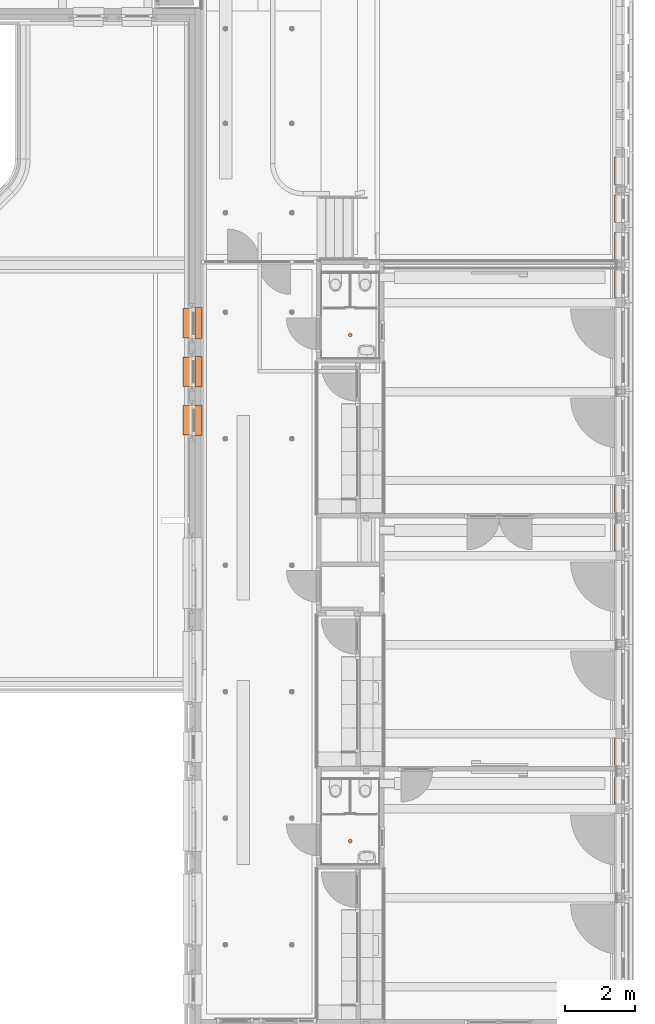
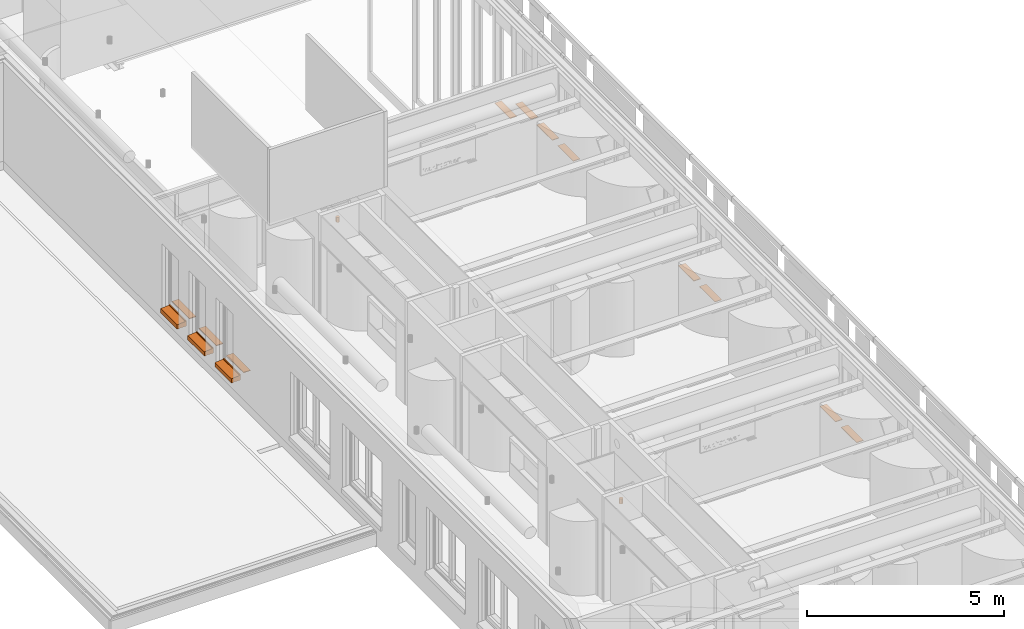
# One storey, part 123 of 128: 16 proxies.
"""IFC2X3 building model written with IfcOpenShell, lengths in millimetres."""

from ifc_helpers import new_model, entity, si_unit, converted_unit, derived_unit, direction, frame, frame_2d, origin, origin_2d_with_axis, place, context, subcontext, project, spatial, polyline, circle_curve, parameter, trimmed, segment, composite_curve, rectangle, circle, outline, extrude, source, transform, mapped, material, type_object, type_shapes, element, save


model = new_model("IFC2X3")

# Units and contexts
model_context = context("Model", 3, precision=0.01, world=origin(), true_north=direction((6.123031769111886e-17, 1.0)))
body_context = subcontext(model_context, "Body", "Model", "MODEL_VIEW")
ifc_project = project(units=[si_unit("LENGTHUNIT", "METRE", prefix="MILLI"), si_unit("AREAUNIT", "SQUARE_METRE"), si_unit("VOLUMEUNIT", "CUBIC_METRE"), converted_unit("PLANEANGLEUNIT", "DEGREE", entity("IfcRatioMeasure", 0.017453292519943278), si_unit("PLANEANGLEUNIT", "RADIAN"), dimensions=[0, 0, 0, 0, 0, 0, 0]), si_unit("MASSUNIT", "GRAM", prefix="KILO"), derived_unit("MASSDENSITYUNIT", [(si_unit("MASSUNIT", "GRAM", prefix="KILO"), 1), (si_unit("LENGTHUNIT", "METRE"), -3)]), derived_unit("IONCONCENTRATIONUNIT", [(si_unit("MASSUNIT", "GRAM", prefix="KILO"), 1), (si_unit("LENGTHUNIT", "METRE"), -3)]), derived_unit("MOMENTOFINERTIAUNIT", [(si_unit("LENGTHUNIT", "METRE"), 4)]), si_unit("TIMEUNIT", "SECOND"), si_unit("FREQUENCYUNIT", "HERTZ"), si_unit("THERMODYNAMICTEMPERATUREUNIT", "DEGREE_CELSIUS"), derived_unit("THERMALTRANSMITTANCEUNIT", [(si_unit("MASSUNIT", "GRAM", prefix="KILO"), 1), (si_unit("THERMODYNAMICTEMPERATUREUNIT", "KELVIN"), -1), (si_unit("TIMEUNIT", "SECOND"), -3)]), derived_unit("THERMALCONDUCTANCEUNIT", [(si_unit("MASSUNIT", "GRAM", prefix="KILO"), 1), (si_unit("THERMODYNAMICTEMPERATUREUNIT", "KELVIN"), -1), (si_unit("TIMEUNIT", "SECOND"), -3), (si_unit("LENGTHUNIT", "METRE"), 1)]), derived_unit("VOLUMETRICFLOWRATEUNIT", [(si_unit("LENGTHUNIT", "METRE"), 3), (si_unit("TIMEUNIT", "SECOND"), -1)]), derived_unit("MASSFLOWRATEUNIT", [(si_unit("MASSUNIT", "GRAM", prefix="KILO"), 1), (si_unit("TIMEUNIT", "SECOND"), -1)]), derived_unit("ROTATIONALFREQUENCYUNIT", [(si_unit("TIMEUNIT", "SECOND"), -1)]), si_unit("ELECTRICCURRENTUNIT", "AMPERE"), si_unit("ELECTRICVOLTAGEUNIT", "VOLT"), si_unit("POWERUNIT", "WATT"), si_unit("FORCEUNIT", "NEWTON", prefix="KILO"), si_unit("ILLUMINANCEUNIT", "LUX"), si_unit("LUMINOUSFLUXUNIT", "LUMEN"), si_unit("LUMINOUSINTENSITYUNIT", "CANDELA"), derived_unit("USERDEFINED", [(si_unit("MASSUNIT", "GRAM", prefix="KILO"), -1), (si_unit("LENGTHUNIT", "METRE"), -2), (si_unit("TIMEUNIT", "SECOND"), 3), (si_unit("LUMINOUSFLUXUNIT", "LUMEN"), 1)]), derived_unit("USERDEFINED", [(si_unit("MASSUNIT", "GRAM", prefix="KILO"), 1), (si_unit("TIMEUNIT", "SECOND"), -3), (si_unit("LENGTHUNIT", "METRE"), 3), (si_unit("ELECTRICCURRENTUNIT", "AMPERE"), -2)]), derived_unit("SOUNDPOWERUNIT", [(si_unit("MASSUNIT", "GRAM", prefix="KILO"), 1), (si_unit("TIMEUNIT", "SECOND"), -3), (si_unit("LENGTHUNIT", "METRE"), 2)]), derived_unit("SOUNDPRESSUREUNIT", [(si_unit("MASSUNIT", "GRAM", prefix="KILO"), 1), (si_unit("LENGTHUNIT", "METRE"), -1), (si_unit("TIMEUNIT", "SECOND"), -2)]), derived_unit("LINEARVELOCITYUNIT", [(si_unit("LENGTHUNIT", "METRE"), 1), (si_unit("TIMEUNIT", "SECOND"), -1)]), si_unit("PRESSUREUNIT", "PASCAL"), derived_unit("USERDEFINED", [(si_unit("MASSUNIT", "GRAM", prefix="KILO"), 1), (si_unit("LENGTHUNIT", "METRE"), -2), (si_unit("TIMEUNIT", "SECOND"), -2)]), derived_unit("LINEARFORCEUNIT", [(si_unit("MASSUNIT", "GRAM", prefix="KILO"), 1), (si_unit("TIMEUNIT", "SECOND"), -2)]), derived_unit("PLANARFORCEUNIT", [(si_unit("MASSUNIT", "GRAM", prefix="KILO"), 1), (si_unit("LENGTHUNIT", "METRE"), -1), (si_unit("TIMEUNIT", "SECOND"), -2)]), derived_unit("SPECIFICHEATCAPACITYUNIT", [(si_unit("THERMODYNAMICTEMPERATUREUNIT", "KELVIN"), -1), (si_unit("LENGTHUNIT", "METRE"), 2), (si_unit("TIMEUNIT", "SECOND"), -2)]), derived_unit("HEATINGVALUEUNIT", [(si_unit("LENGTHUNIT", "METRE"), 2), (si_unit("TIMEUNIT", "SECOND"), -2)]), derived_unit("VAPORPERMEABILITYUNIT", [(si_unit("LENGTHUNIT", "METRE"), -1), (si_unit("TIMEUNIT", "SECOND"), 1)]), derived_unit("DYNAMICVISCOSITYUNIT", [(si_unit("MASSUNIT", "GRAM", prefix="KILO"), 1), (si_unit("TIMEUNIT", "SECOND"), -1), (si_unit("LENGTHUNIT", "METRE"), -1)]), derived_unit("THERMALEXPANSIONCOEFFICIENTUNIT", [(si_unit("THERMODYNAMICTEMPERATUREUNIT", "KELVIN"), -1)]), derived_unit("MODULUSOFELASTICITYUNIT", [(si_unit("MASSUNIT", "GRAM", prefix="KILO"), 1), (si_unit("LENGTHUNIT", "METRE"), -1), (si_unit("TIMEUNIT", "SECOND"), -2)]), derived_unit("ISOTHERMALMOISTURECAPACITYUNIT", [(si_unit("LENGTHUNIT", "METRE"), 3), (si_unit("MASSUNIT", "GRAM", prefix="KILO"), -1)]), derived_unit("MOISTUREDIFFUSIVITYUNIT", [(si_unit("TIMEUNIT", "SECOND"), -1), (si_unit("LENGTHUNIT", "METRE"), 2)])], contexts=[model_context])

# Site, building, storey, space
site_placement = place(None, frame((0.0, 300.0, 0.0)))
site = spatial("IfcSite", under=ifc_project, at=site_placement, Name="<Kadastrale nummers>", CompositionType="ELEMENT")
building_placement = place(site_placement, origin())
building = spatial("IfcBuilding", under=site, at=building_placement, CompositionType="ELEMENT")
storey_placement = place(building_placement, frame((0.0, 0.0, 3560.0000331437)))
storey = spatial("IfcBuildingStorey", under=building, at=storey_placement, Name="01 eerste verdieping", CompositionType="ELEMENT", Elevation=3560.0000331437)
space_1_placement = place(storey_placement, origin())
space_1 = spatial("IfcSpace", under=storey, at=space_1_placement, Name="1.27", CompositionType="ELEMENT", InteriorOrExteriorSpace="INTERNAL")

# Proxy
ifc_material_1 = material(Name="<Unnamed>")
building_element_proxy_type_1 = type_object("IfcBuildingElementProxyType", Name="63_DAT_Spotverlichting:2400", PredefinedType="NOTDEFINED", material=ifc_material_1)
shared_shape_1 = source(origin(), body_context, "Body", "SweptSolid", [
    extrude(circle(Radius=50.0, at=frame_2d((0.0, -8.077722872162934e-14), x_axis=(1.0, 0.0))), frame((0.0, 0.0, 2250.0)), (0.0, 0.0, 1.0), 150.0),
])
type_shapes(building_element_proxy_type_1, [shared_shape_1])
proxy_1_placement = place(space_1_placement, frame((40945.0, 28909.997934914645, 90.00000187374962)))
element("IfcBuildingElementProxy", 1, at=proxy_1_placement, inside=space_1, type_object=building_element_proxy_type_1, material=ifc_material_1, Name="63_DAT_Spotverlichting:2400", ObjectType="63_DAT_Spotverlichting:2400", context=body_context, shape_type="MappedRepresentation", body=[
    mapped(shared_shape_1, transform((0.0, 0.0, 0.0), scale=1.0)),
])

# Space
space_2_placement = place(storey_placement, origin())
space_2 = spatial("IfcSpace", under=storey, at=space_2_placement, Name="1.25", CompositionType="ELEMENT", InteriorOrExteriorSpace="INTERNAL")

# Proxies
proxy_2_placement = place(space_2_placement, frame((40945.0, 14509.997934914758, 90.00000187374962)))
element("IfcBuildingElementProxy", 2, at=proxy_2_placement, inside=space_2, type_object=building_element_proxy_type_1, material=ifc_material_1, Name="63_DAT_Spotverlichting:2400", ObjectType="63_DAT_Spotverlichting:2400", context=body_context, shape_type="MappedRepresentation", body=[
    mapped(shared_shape_1, transform((0.0, 0.0, 0.0), scale=1.0)),
])
ifc_material_2 = material(Name="e1_natuursteen")
building_element_proxy_type_2 = type_object("IfcBuildingElementProxyType", Name="NLRS_31_GM_WPB_vensterbank natuursteen -SH_gen_ASN:200x18", PredefinedType="USERDEFINED", material=ifc_material_2)
shared_shape_2 = source(origin(), body_context, "Body", "SweptSolid", [
    extrude(rectangle(XDim=200.0, YDim=789.9989494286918, at=origin_2d_with_axis()), frame((0.0, -100.0, 0.0), z_axis=(0.0, 0.0, 1.0), x_axis=(0.0, -1.0, 0.0)), (0.0, 0.0, 1.0), 17.999999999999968),
])
type_shapes(building_element_proxy_type_2, [shared_shape_2])
for number, where, z_axis, x_axis, name in (
    (3, (48468.0, 33574.99947471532, 294.9999668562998), (0.0, 0.0, 1.0), (0.0, 1.0, 0.0), "NLRS_31_GM_WPB_vensterbank natuursteen -SH_gen_ASN:200x18"),
    (4, (48468.0, 32504.99947471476, 920.0000018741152), (0.0, 0.0, 1.0), (0.0, 1.0, 0.0), "NLRS_31_GM_WPB_vensterbank natuursteen -SH_gen_ASN:200x18"),
    (5, (48468.0, 31434.999474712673, 920.0000018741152), (0.0, 0.0, 1.0), (0.0, 1.0, 0.0), "NLRS_31_GM_WPB_vensterbank natuursteen -SH_gen_ASN:200x18"),
):
    element("IfcBuildingElementProxy", number, at=place(storey_placement, frame(where, z_axis=z_axis, x_axis=x_axis)), inside=storey, type_object=building_element_proxy_type_2, material=ifc_material_2, Name=name, ObjectType="NLRS_31_GM_WPB_vensterbank natuursteen -SH_gen_ASN:200x18", context=body_context, shape_type="MappedRepresentation", body=[
        mapped(shared_shape_2, transform((0.0, 0.0, 0.0), scale=1.0)),
    ])

# Space
space_3_placement = place(storey_placement, origin())
space_3 = spatial("IfcSpace", under=storey, at=space_3_placement, Name="1.21", CompositionType="ELEMENT", InteriorOrExteriorSpace="INTERNAL")

# Proxies
for number, where, z_axis, x_axis, name in (
    (6, (48468.0, 30364.999474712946, 920.0000018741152), (0.0, 0.0, 1.0), (0.0, 1.0, 0.0), "NLRS_31_GM_WPB_vensterbank natuursteen -SH_gen_ASN:200x18"),
    (7, (48468.0, 24234.999474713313, 920.0000018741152), (0.0, 0.0, 1.0), (0.0, 1.0, 0.0), "NLRS_31_GM_WPB_vensterbank natuursteen -SH_gen_ASN:200x18"),
):
    element("IfcBuildingElementProxy", number, at=place(space_3_placement, frame(where, z_axis=z_axis, x_axis=x_axis)), inside=space_3, type_object=building_element_proxy_type_2, material=ifc_material_2, Name=name, ObjectType="NLRS_31_GM_WPB_vensterbank natuursteen -SH_gen_ASN:200x18", context=body_context, shape_type="MappedRepresentation", body=[
        mapped(shared_shape_2, transform((0.0, 0.0, 0.0), scale=1.0)),
    ])

# Space
space_4_placement = place(storey_placement, origin())
space_4 = spatial("IfcSpace", under=storey, at=space_4_placement, Name="1.22", CompositionType="ELEMENT", InteriorOrExteriorSpace="INTERNAL")

# Proxies
for number, where, z_axis, x_axis, name in (
    (8, (48468.0, 23164.999474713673, 920.0000018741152), (0.0, 0.0, 1.0), (0.0, 1.0, 0.0), "NLRS_31_GM_WPB_vensterbank natuursteen -SH_gen_ASN:200x18"),
    (9, (48468.0, 17034.999474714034, 920.0000018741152), (0.0, 0.0, 1.0), (0.0, 1.0, 0.0), "NLRS_31_GM_WPB_vensterbank natuursteen -SH_gen_ASN:200x18"),
):
    element("IfcBuildingElementProxy", number, at=place(space_4_placement, frame(where, z_axis=z_axis, x_axis=x_axis)), inside=space_4, type_object=building_element_proxy_type_2, material=ifc_material_2, Name=name, ObjectType="NLRS_31_GM_WPB_vensterbank natuursteen -SH_gen_ASN:200x18", context=body_context, shape_type="MappedRepresentation", body=[
        mapped(shared_shape_2, transform((0.0, 0.0, 0.0), scale=1.0)),
    ])

# Space
space_5_placement = place(storey_placement, origin())
space_5 = spatial("IfcSpace", under=storey, at=space_5_placement, Name="1.23", CompositionType="ELEMENT", InteriorOrExteriorSpace="INTERNAL")

# Proxies
proxy_3_placement = place(space_5_placement, frame((48468.0, 15964.99947471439, 920.0000018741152), z_axis=(0.0, 0.0, 1.0), x_axis=(0.0, 1.0, 0.0)))
element("IfcBuildingElementProxy", 10, at=proxy_3_placement, inside=space_5, type_object=building_element_proxy_type_2, material=ifc_material_2, Name="NLRS_31_GM_WPB_vensterbank natuursteen -SH_gen_ASN:200x18", ObjectType="NLRS_31_GM_WPB_vensterbank natuursteen -SH_gen_ASN:200x18", context=body_context, shape_type="MappedRepresentation", body=[
    mapped(shared_shape_2, transform((0.0, 0.0, 0.0), scale=1.0)),
])
building_element_proxy_type_3 = type_object("IfcBuildingElementProxyType", Name="NLRS_31_GM_WPB_vensterbank natuursteen -SH_gen_ASN:200x18", PredefinedType="USERDEFINED", material=ifc_material_2)
shared_shape_3 = source(origin(), body_context, "Body", "SweptSolid", [
    extrude(rectangle(XDim=200.0, YDim=880.0000000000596, at=origin_2d_with_axis()), frame((0.0, -100.0, 0.0), z_axis=(0.0, 0.0, 1.0), x_axis=(0.0, -1.0, 0.0)), (0.0, 0.0, 1.0), 17.999999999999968),
])
type_shapes(building_element_proxy_type_3, [shared_shape_3])
for number, where, z_axis, x_axis, name in (
    (11, (36530.0, 26485.0, 920.0000018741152), (0.0, 0.0, 1.0), (0.0, 1.0, 0.0), "NLRS_31_GM_WPB_vensterbank natuursteen -SH_gen_ASN:200x18"),
    (12, (36530.0, 27865.0, 920.0000018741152), (0.0, 0.0, 1.0), (0.0, 1.0, 0.0), "NLRS_31_GM_WPB_vensterbank natuursteen -SH_gen_ASN:200x18"),
    (13, (36530.0, 29245.0, 920.0000018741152), (0.0, 0.0, 1.0), (0.0, 1.0, 0.0), "NLRS_31_GM_WPB_vensterbank natuursteen -SH_gen_ASN:200x18"),
):
    element("IfcBuildingElementProxy", number, at=place(storey_placement, frame(where, z_axis=z_axis, x_axis=x_axis)), inside=storey, type_object=building_element_proxy_type_3, material=ifc_material_2, Name=name, ObjectType="NLRS_31_GM_WPB_vensterbank natuursteen -SH_gen_ASN:200x18", context=body_context, shape_type="MappedRepresentation", body=[
        mapped(shared_shape_3, transform((0.0, 0.0, 0.0), scale=1.0)),
    ])
ifc_material_3 = material(Name="ISR_Beton_prefab")
building_element_proxy_type_4 = type_object("IfcBuildingElementProxyType", Name="29_DAT_Prefab betonnen waterslag kort:29_DAT_Prefab betonnen waterslag kort", PredefinedType="NOTDEFINED", material=ifc_material_3)
shared_shape_4 = source(origin(), body_context, "Body", "SweptSolid", [
    extrude(outline(composite_curve([segment(polyline([(-95.62465990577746, -137.5), (79.37534009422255, -137.5)]), True, "CONTINUOUS"), segment(polyline([(79.37534009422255, -137.5), (79.37534009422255, 107.49999999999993)]), True, "CONTINUOUS"), segment(trimmed(circle_curve(frame_2d((79.37534009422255, 112.49999999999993), x_axis=(0.0, 1.0)), 5.000000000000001), [parameter(4.0711099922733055e-13)], [parameter(180.00000000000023)], True, "PARAMETER"), False, "CONTINUOUS"), segment(polyline([(79.37534009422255, 117.49999999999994), (79.37534009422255, 132.5)]), True, "CONTINUOUS"), segment(polyline([(79.37534009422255, 132.5), (-52.6273806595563, 132.5)]), True, "CONTINUOUS"), segment(polyline([(-52.62738065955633, 132.50000000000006), (-73.62465990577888, -107.49999999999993)]), True, "CONTINUOUS"), segment(polyline([(-73.62465990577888, -107.49999999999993), (-95.62465990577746, -107.49999999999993)]), True, "CONTINUOUS"), segment(polyline([(-95.62465990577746, -107.49999999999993), (-95.62465990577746, -137.5)]), True, "CONTINUOUS")], self_intersect=False)), frame((0.0, -82.50000000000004, -95.62465990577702), z_axis=(1.0, 0.0, 0.0), x_axis=(0.0, 0.0, -1.0)), (0.0, 0.0, 1.0), 840.0000000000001),
])
type_shapes(building_element_proxy_type_4, [shared_shape_4])
for number, where, z_axis, x_axis, name in (
    (14, (36235.0, 26065.0, 890.0000018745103), (0.0, 0.0, 1.0), (0.0, 1.0, 0.0), "29_DAT_Prefab betonnen waterslag kort:29_DAT_Prefab betonnen waterslag kort"),
    (15, (36235.0, 27445.0, 890.0000018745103), (0.0, 0.0, 1.0), (0.0, 1.0, 0.0), "29_DAT_Prefab betonnen waterslag kort:29_DAT_Prefab betonnen waterslag kort"),
    (16, (36235.0, 28825.0, 890.0000018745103), (0.0, 0.0, 1.0), (0.0, 1.0, 0.0), "29_DAT_Prefab betonnen waterslag kort:29_DAT_Prefab betonnen waterslag kort"),
):
    element("IfcBuildingElementProxy", number, at=place(storey_placement, frame(where, z_axis=z_axis, x_axis=x_axis)), inside=storey, type_object=building_element_proxy_type_4, material=ifc_material_3, Name=name, ObjectType="29_DAT_Prefab betonnen waterslag kort:29_DAT_Prefab betonnen waterslag kort", context=body_context, shape_type="MappedRepresentation", body=[
        mapped(shared_shape_4, transform((0.0, 0.0, 0.0), scale=1.0)),
    ])

save(model, "model.ifc")
